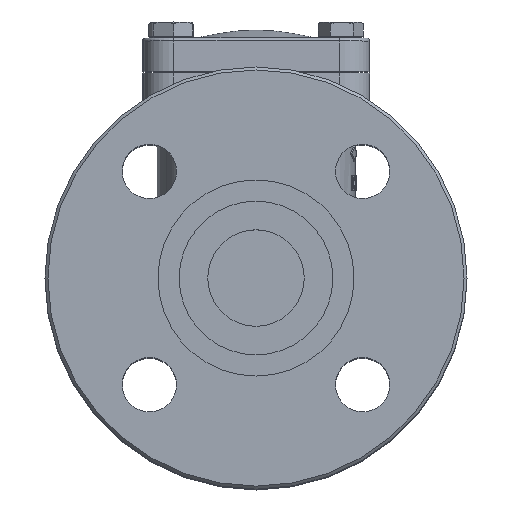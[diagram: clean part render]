
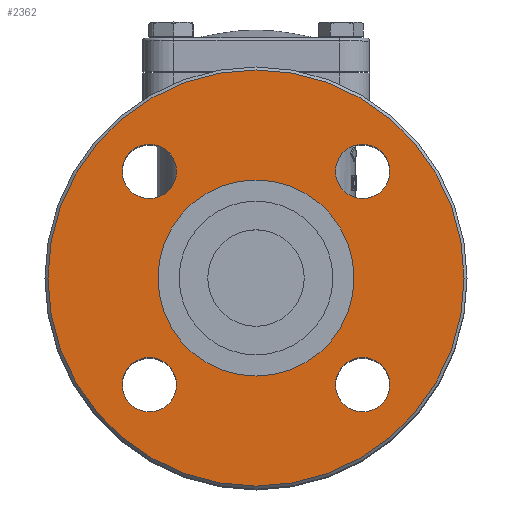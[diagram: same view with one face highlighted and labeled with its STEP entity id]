
A CAD part, top view. The second image highlights one B-rep face of the part: STEP entity #2362.
In plain terms, the highlighted planar face has unit normal (0, 0, 1).
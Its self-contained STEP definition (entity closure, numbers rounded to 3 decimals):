
#2362=ADVANCED_FACE('',(#6359,#6361,#6363,#6365,#6367,#6369),#6371,.F.);
#6359=FACE_BOUND('',#6360,.T.);
#6360=EDGE_LOOP('',(#8547));
#6361=FACE_BOUND('',#6362,.T.);
#6362=EDGE_LOOP('',(#8548));
#6363=FACE_BOUND('',#6364,.T.);
#6364=EDGE_LOOP('',(#8549));
#6365=FACE_BOUND('',#6366,.T.);
#6366=EDGE_LOOP('',(#8550));
#6367=FACE_BOUND('',#6368,.T.);
#6368=EDGE_LOOP('',(#8551));
#6369=FACE_BOUND('',#6370,.T.);
#6370=EDGE_LOOP('',(#8552));
#6371=PLANE('',#6372);
#6372=AXIS2_PLACEMENT_3D('',#6373,#6374,#6375);
#6373=CARTESIAN_POINT('',(0.,0.,85.5));
#6374=DIRECTION('',(0.,0.,-1.));
#6375=DIRECTION('',(0.,1.,0.));
#8547=ORIENTED_EDGE('',*,*,#9728,.F.);
#8548=ORIENTED_EDGE('',*,*,#9729,.T.);
#8549=ORIENTED_EDGE('',*,*,#9707,.F.);
#8550=ORIENTED_EDGE('',*,*,#9706,.F.);
#8551=ORIENTED_EDGE('',*,*,#9705,.F.);
#8552=ORIENTED_EDGE('',*,*,#9704,.F.);
#9704=EDGE_CURVE('',#11007,#11007,#11008,.T.);
#9705=EDGE_CURVE('',#11009,#11009,#11010,.T.);
#9706=EDGE_CURVE('',#11011,#11011,#11012,.T.);
#9707=EDGE_CURVE('',#11013,#11013,#11014,.T.);
#9728=EDGE_CURVE('',#11055,#11055,#11056,.F.);
#9729=EDGE_CURVE('',#11057,#11057,#11058,.T.);
#11007=VERTEX_POINT('',#19208);
#11008=CIRCLE('',#19209,9.);
#11009=VERTEX_POINT('',#19213);
#11010=CIRCLE('',#19214,9.);
#11011=VERTEX_POINT('',#19218);
#11012=CIRCLE('',#19219,9.);
#11013=VERTEX_POINT('',#19223);
#11014=CIRCLE('',#19224,9.);
#11055=VERTEX_POINT('',#19328);
#11056=CIRCLE('',#19329,69.);
#11057=VERTEX_POINT('',#19333);
#11058=CIRCLE('',#19334,32.5);
#19208=CARTESIAN_POINT('',(44.355,35.355,85.5));
#19209=AXIS2_PLACEMENT_3D('',#19210,#19211,#19212);
#19210=CARTESIAN_POINT('',(35.355,35.355,85.5));
#19211=DIRECTION('',(0.,0.,1.));
#19212=DIRECTION('',(1.,0.,0.));
#19213=CARTESIAN_POINT('',(-26.355,35.355,85.5));
#19214=AXIS2_PLACEMENT_3D('',#19215,#19216,#19217);
#19215=CARTESIAN_POINT('',(-35.355,35.355,85.5));
#19216=DIRECTION('',(0.,0.,1.));
#19217=DIRECTION('',(1.,0.,0.));
#19218=CARTESIAN_POINT('',(-26.355,-35.355,85.5));
#19219=AXIS2_PLACEMENT_3D('',#19220,#19221,#19222);
#19220=CARTESIAN_POINT('',(-35.355,-35.355,85.5));
#19221=DIRECTION('',(0.,0.,1.));
#19222=DIRECTION('',(1.,0.,0.));
#19223=CARTESIAN_POINT('',(44.355,-35.355,85.5));
#19224=AXIS2_PLACEMENT_3D('',#19225,#19226,#19227);
#19225=CARTESIAN_POINT('',(35.355,-35.355,85.5));
#19226=DIRECTION('',(0.,0.,1.));
#19227=DIRECTION('',(1.,0.,0.));
#19328=CARTESIAN_POINT('',(-69.,0.,85.5));
#19329=AXIS2_PLACEMENT_3D('',#19330,#19331,#19332);
#19330=CARTESIAN_POINT('',(0.,0.,85.5));
#19331=DIRECTION('',(0.,0.,1.));
#19332=DIRECTION('',(-1.,0.,0.));
#19333=CARTESIAN_POINT('',(0.,32.5,85.5));
#19334=AXIS2_PLACEMENT_3D('',#19335,#19336,#19337);
#19335=CARTESIAN_POINT('',(0.,0.,85.5));
#19336=DIRECTION('',(0.,0.,-1.));
#19337=DIRECTION('',(0.,1.,0.));
